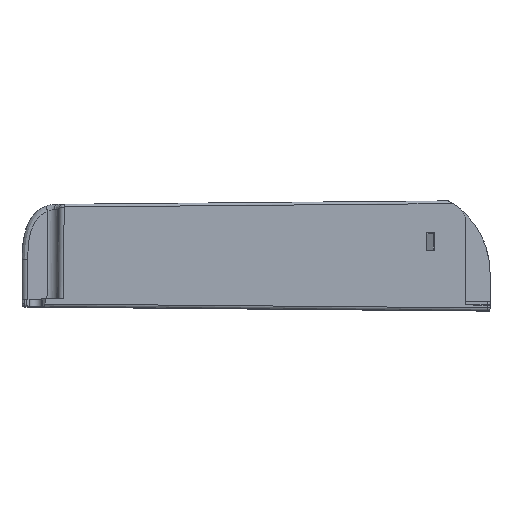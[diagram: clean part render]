
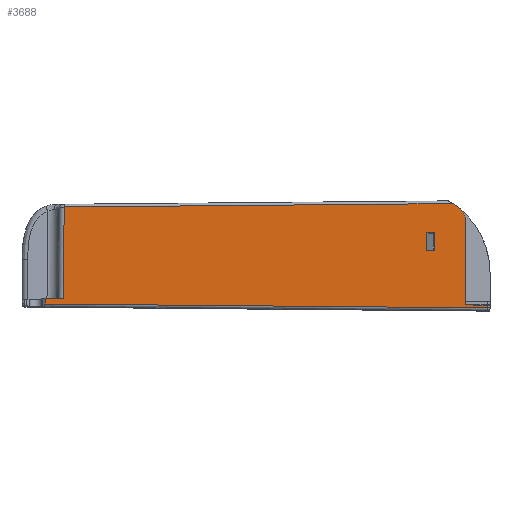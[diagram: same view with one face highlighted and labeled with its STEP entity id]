
A CAD part, top view. The second image highlights one B-rep face of the part: STEP entity #3688.
In plain terms, the highlighted planar face has unit normal (-0.009, 0, 1).
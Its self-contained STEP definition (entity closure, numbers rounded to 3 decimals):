
#685=CARTESIAN_POINT('',(-154.689,37.65,48.65));
#701=DIRECTION('',(-1.,0.009,-0.009));
#702=VECTOR('',#701,160.637);
#703=CARTESIAN_POINT('',(-1.009,1.009,49.991));
#704=LINE('',#703,#702);
#705=DIRECTION('',(0.,1.,0.));
#706=VECTOR('',#705,1.882);
#707=CARTESIAN_POINT('',(-161.634,2.411,48.589));
#708=LINE('',#707,#706);
#709=DIRECTION('',(0.999,0.035,0.009));
#710=VECTOR('',#709,6.66);
#711=CARTESIAN_POINT('',(-161.634,4.292,48.589));
#712=LINE('',#711,#710);
#713=DIRECTION('',(0.009,1.,0.));
#714=VECTOR('',#713,33.127);
#715=CARTESIAN_POINT('',(-154.978,4.525,48.648));
#716=LINE('',#715,#714);
#717=DIRECTION('',(1.,0.009,0.009));
#718=VECTOR('',#717,141.291);
#719=CARTESIAN_POINT('',(-154.689,37.65,48.65));
#720=LINE('',#719,#718);
#721=CARTESIAN_POINT('',(-13.409,38.883,49.883));
#722=CARTESIAN_POINT('',(-12.504,38.282,49.891));
#723=CARTESIAN_POINT('',(-11.634,37.634,49.898));
#724=CARTESIAN_POINT('',(-10.8,36.939,49.906));
#726=CARTESIAN_POINT('',(-10.8,36.939,49.906));
#727=CARTESIAN_POINT('',(-10.2,36.439,49.911));
#728=CARTESIAN_POINT('',(-9.344,35.279,49.918));
#729=CARTESIAN_POINT('',(-9.,33.878,49.921));
#730=CARTESIAN_POINT('',(-9.,33.097,49.921));
#732=DIRECTION('',(1.,-0.009,0.009));
#733=VECTOR('',#732,7.992);
#734=CARTESIAN_POINT('',(-9.,2.079,49.921));
#735=LINE('',#734,#733);
#868=DIRECTION('',(0.,1.,0.));
#869=VECTOR('',#868,1.);
#870=CARTESIAN_POINT('',(-1.009,1.009,49.991));
#871=LINE('',#870,#869);
#985=CARTESIAN_POINT('',(-1.009,2.009,49.991));
#1168=DIRECTION('',(0.,1.,0.));
#1169=VECTOR('',#1168,31.019);
#1170=CARTESIAN_POINT('',(-9.,2.079,49.921));
#1171=LINE('',#1170,#1169);
#1793=DIRECTION('',(1.,0.,0.009));
#1794=VECTOR('',#1793,3.1);
#1795=CARTESIAN_POINT('',(-23.1,28.25,49.798));
#1796=LINE('',#1795,#1794);
#1801=DIRECTION('',(0.,1.,0.));
#1802=VECTOR('',#1801,6.5);
#1803=CARTESIAN_POINT('',(-23.1,21.75,49.798));
#1804=LINE('',#1803,#1802);
#1809=DIRECTION('',(-1.,0.,-0.009));
#1810=VECTOR('',#1809,3.1);
#1811=CARTESIAN_POINT('',(-20.,21.75,49.825));
#1812=LINE('',#1811,#1810);
#1817=DIRECTION('',(0.,-1.,0.));
#1818=VECTOR('',#1817,6.5);
#1819=CARTESIAN_POINT('',(-20.,28.25,49.825));
#1820=LINE('',#1819,#1818);
#2308=CARTESIAN_POINT('',(-23.1,28.25,49.798));
#2309=VERTEX_POINT('',#2308);
#2310=CARTESIAN_POINT('',(-20.,28.25,49.825));
#2311=VERTEX_POINT('',#2310);
#2316=CARTESIAN_POINT('',(-20.,21.75,49.825));
#2317=VERTEX_POINT('',#2316);
#2322=CARTESIAN_POINT('',(-23.1,21.75,49.798));
#2323=VERTEX_POINT('',#2322);
#2448=VERTEX_POINT('',#985);
#2449=CARTESIAN_POINT('',(-9.,2.079,49.921));
#2450=VERTEX_POINT('',#2449);
#2492=CARTESIAN_POINT('',(-9.,33.097,49.921));
#2493=VERTEX_POINT('',#2492);
#2495=CARTESIAN_POINT('',(-10.8,36.939,49.906));
#2497=VERTEX_POINT('',#2495);
#2498=VERTEX_POINT('',#721);
#2519=VERTEX_POINT('',#685);
#2520=CARTESIAN_POINT('',(-1.009,1.009,49.991));
#2521=CARTESIAN_POINT('',(-161.634,2.411,48.589));
#2522=VERTEX_POINT('',#2520);
#2523=VERTEX_POINT('',#2521);
#2524=CARTESIAN_POINT('',(-161.634,4.292,48.589));
#2525=VERTEX_POINT('',#2524);
#2526=CARTESIAN_POINT('',(-154.978,4.525,48.648));
#2527=VERTEX_POINT('',#2526);
#3655=CARTESIAN_POINT('',(0.,-2.545,50.));
#3656=DIRECTION('',(-0.009,0.,1.));
#3657=DIRECTION('',(0.,-1.,0.));
#3658=AXIS2_PLACEMENT_3D('',#3655,#3656,#3657);
#3659=PLANE('',#3658);
#3661=ORIENTED_EDGE('',*,*,#3660,.T.);
#3663=ORIENTED_EDGE('',*,*,#3662,.T.);
#3665=ORIENTED_EDGE('',*,*,#3664,.T.);
#3666=ORIENTED_EDGE('',*,*,#3646,.T.);
#3667=ORIENTED_EDGE('',*,*,#2755,.T.);
#3668=ORIENTED_EDGE('',*,*,#2770,.T.);
#3669=ORIENTED_EDGE('',*,*,#2788,.T.);
#3671=ORIENTED_EDGE('',*,*,#3670,.F.);
#3673=ORIENTED_EDGE('',*,*,#3672,.T.);
#3675=ORIENTED_EDGE('',*,*,#3674,.F.);
#3676=EDGE_LOOP('',(#3661,#3663,#3665,#3666,#3667,#3668,#3669,#3671,#3673,
#3675));
#3677=FACE_OUTER_BOUND('',#3676,.F.);
#3679=ORIENTED_EDGE('',*,*,#3678,.F.);
#3681=ORIENTED_EDGE('',*,*,#3680,.F.);
#3683=ORIENTED_EDGE('',*,*,#3682,.F.);
#3685=ORIENTED_EDGE('',*,*,#3684,.F.);
#3686=EDGE_LOOP('',(#3679,#3681,#3683,#3685));
#3687=FACE_BOUND('',#3686,.F.);
#3688=ADVANCED_FACE('',(#3677,#3687),#3659,.T.);
#725=B_SPLINE_CURVE_WITH_KNOTS('',3,(#721,#722,#723,#724),.UNSPECIFIED.,.F.,.F.,
(4,4),(0.,1.),.UNSPECIFIED.);
#731=B_SPLINE_CURVE_WITH_KNOTS('',3,(#726,#727,#728,#729,#730),.UNSPECIFIED.,
.F.,.F.,(4,1,4),(0.,0.5,1.),.UNSPECIFIED.);
#2755=EDGE_CURVE('',#2519,#2498,#720,.T.);
#2770=EDGE_CURVE('',#2498,#2497,#725,.T.);
#2788=EDGE_CURVE('',#2497,#2493,#731,.T.);
#3646=EDGE_CURVE('',#2527,#2519,#716,.T.);
#3660=EDGE_CURVE('',#2522,#2523,#704,.T.);
#3662=EDGE_CURVE('',#2523,#2525,#708,.T.);
#3664=EDGE_CURVE('',#2525,#2527,#712,.T.);
#3670=EDGE_CURVE('',#2450,#2493,#1171,.T.);
#3672=EDGE_CURVE('',#2450,#2448,#735,.T.);
#3674=EDGE_CURVE('',#2522,#2448,#871,.T.);
#3678=EDGE_CURVE('',#2309,#2311,#1796,.T.);
#3680=EDGE_CURVE('',#2323,#2309,#1804,.T.);
#3682=EDGE_CURVE('',#2317,#2323,#1812,.T.);
#3684=EDGE_CURVE('',#2311,#2317,#1820,.T.);
